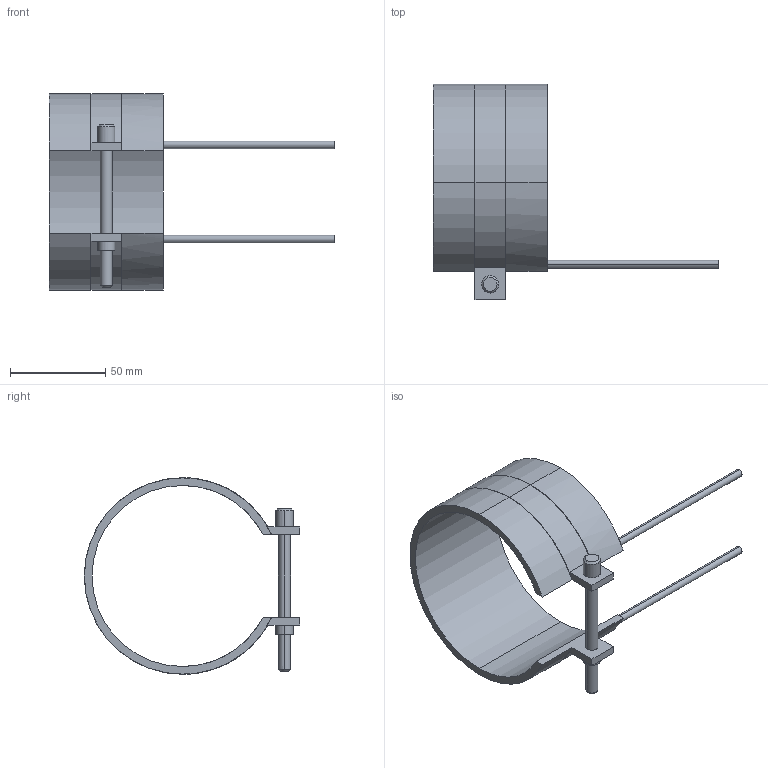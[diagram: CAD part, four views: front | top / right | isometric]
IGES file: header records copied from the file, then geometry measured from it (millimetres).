
Start section: START RECORD GO HERE.
Global section: file name: 14095060.igs; native system: DASSAULT SYSTEMES CATIA V5 R20 - www.3ds.com; preprocessor: CATIA Version 5 Release 20 ; author: Utente; organization: NB04-ASUS; date: 20210406.182645; units: millimetre
Bounding box: 150 x 113.1 x 103.2 mm (x, y, z)
Surface area: 39724.3 mm2 (no closed solid volume)
Topology: 0 solids, 0 shells, 45 faces, 232 edges, 232 vertices
Faces by surface type: revolution 28, plane 17
